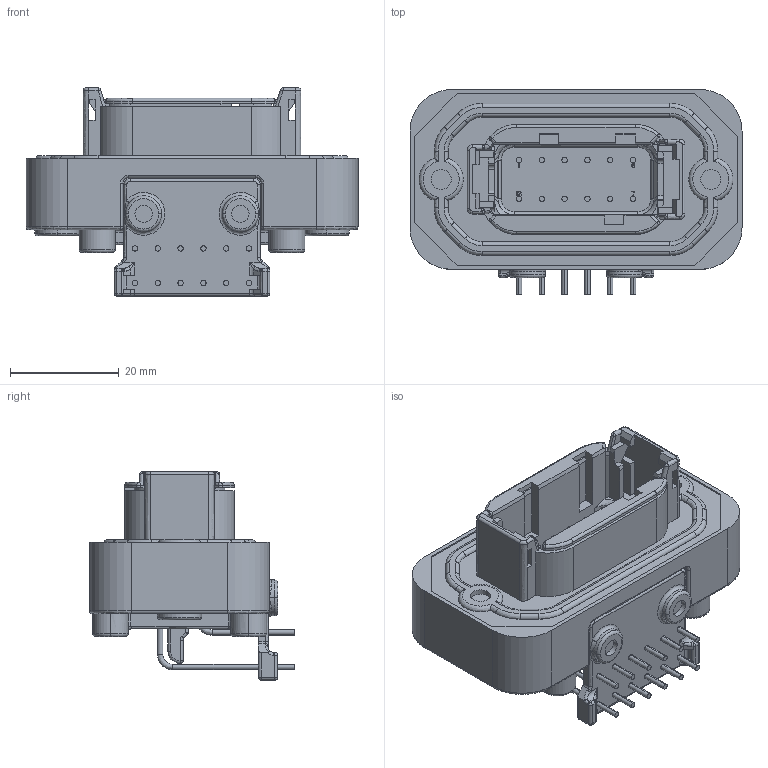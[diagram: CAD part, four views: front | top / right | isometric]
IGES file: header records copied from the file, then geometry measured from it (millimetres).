
Start section:  PTC IGES file: c-dtm13-12pa-99-3d.igs
Global section: file name: c-dtm13-12pa-99-3d.igs; native system: Pro/ENGINEER by Parametric Technology Corporation; preprocessor: 2011490; author: workeradm; organization: Unknown; units: millimetre
Bounding box: 60.96 x 37.59 x 38.21 mm (x, y, z)
Surface area: 14298.7 mm2 (no closed solid volume)
Topology: 0 solids, 0 shells, 992 faces, 4978 edges, 4978 vertices
Faces by surface type: revolution 514, bspline 478
